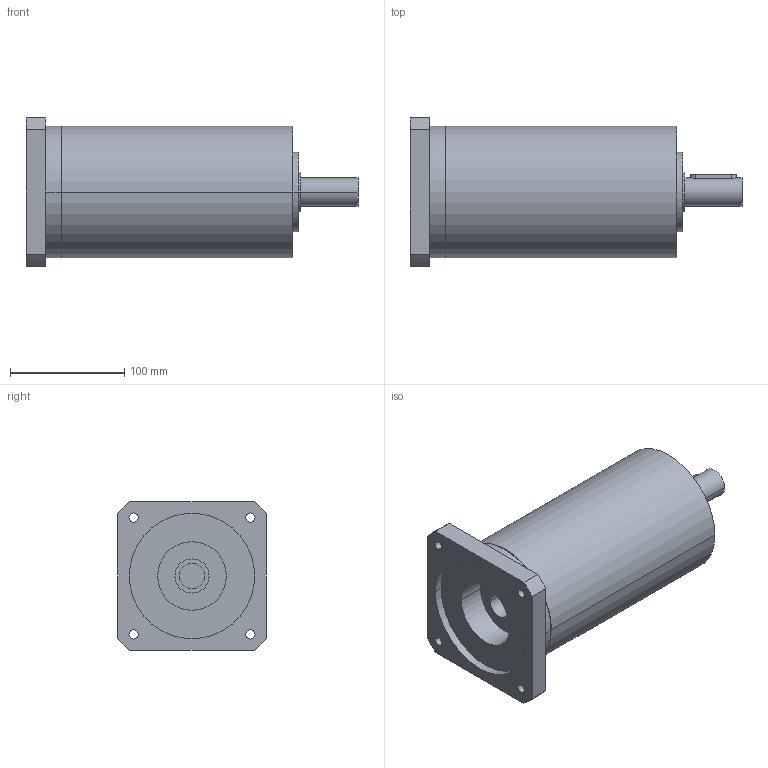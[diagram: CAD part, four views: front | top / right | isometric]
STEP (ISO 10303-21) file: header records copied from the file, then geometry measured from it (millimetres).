
FILE_DESCRIPTION(('CoCreate Modeling STEP Export'),'2;1');
FILE_NAME('GPR125_ig-48-64-80-100-140-196-245-343_25_B14_22_P11.stp','2014-08-26T14:22:11',(''),(''),'CoCreate Modeling STEP processor for AP214 (Solid Model)','CoCreate Modeling 16.00C 25-Feb-2009 (C) Parametric Technology GmbH','');
FILE_SCHEMA(('AUTOMOTIVE_DESIGN { 1 0 10303 214 1 1 1 1 }'));
Length unit declared in the file: millimetre
Products named in the file (2): GPR125_ig-48-64-80-100-140-196-245-343_25_B14_22_P11
Assembly tree (1 placements, depth 2):
  GPR125_ig-48-64-80-100-140-196-245-343_25_B14_22_P11
    GPR125_ig-48-64-80-100-140-196-245-343_25_B14_22_P11
Bounding box: 291 x 130 x 130 mm (x, y, z)
Volume: 2425263.7 mm3; surface area: 141374 mm2
Topology: 1 solids, 1 shells, 68 faces, 185 edges, 131 vertices
Faces by surface type: cylinder 42, plane 22, cone 4
Entity records: 1913 total; most frequent: ORIENTED_EDGE 366, CARTESIAN_POINT 360, DIRECTION 258, EDGE_CURVE 183, VERTEX_POINT 131, AXIS2_PLACEMENT_3D 97, EDGE_LOOP 90, FACE_OUTER_BOUND 68
